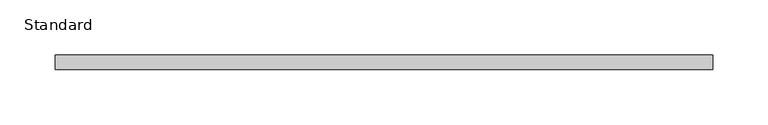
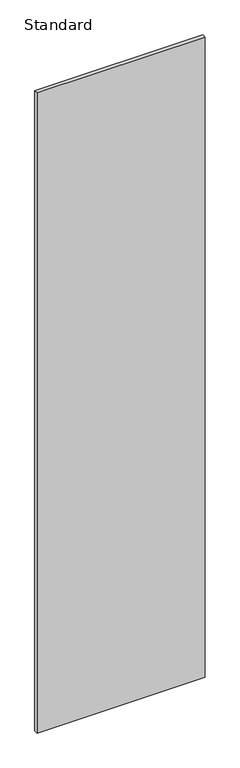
"""IFC4 building model written with IfcOpenShell, lengths in millimetres: furniture geometry, X_Partition-Compact Laminate-Duracube-Urinal : Standard."""

import ifcopenshell
import ifcopenshell.guid

model = None  # the IFC model being written
_history = None  # IfcOwnerHistory: only IFC2X3 demands one
_inside = {}  # id of a spatial element -> (the spatial element, [elements in it])
_under = {}  # id of a project, library or spatial element -> (it, [spatial elements below it])
_declared = {}  # id of a project -> (the project, [libraries it declares])
_typed = {}  # id of a type object -> (the type object, [elements of that type])
_made_of = {}  # id of a material, layer set ... -> (it, [elements and type objects made of it])


def new_model(schema):
    """Start an empty IFC model of exactly this schema.

    Asked for "IFC4X3", IfcOpenShell would pick the latest addendum, in which some entities
    have other attributes; the version numbers below select the first issue.
    IFC2X3 requires an IfcOwnerHistory on every rooted entity: one is made here for all.
    """
    global model, _history
    if schema == "IFC4X3":
        model = ifcopenshell.file(schema_version=(4, 3, 0, 0))
    else:
        model = ifcopenshell.file(schema=schema)
    _inside.clear()
    _under.clear()
    _declared.clear()
    _typed.clear()
    _made_of.clear()
    _history = None
    if model.schema == "IFC2X3":
        org = make("IfcOrganization", Name="unknown")
        user = make(
            "IfcPersonAndOrganization",
            ThePerson=make("IfcPerson", FamilyName="unknown"),
            TheOrganization=org,
        )
        app = make(
            "IfcApplication",
            ApplicationDeveloper=org,
            Version="unknown",
            ApplicationFullName="unknown",
            ApplicationIdentifier="unknown",
        )
        _history = make(
            "IfcOwnerHistory",
            OwningUser=user,
            OwningApplication=app,
            ChangeAction="ADDED",
            CreationDate=0,
        )
    return model


def make(cls, **values):
    """One entity of the class cls with the attributes given. An attribute that is None is left unset."""
    return model.create_entity(
        cls, **{name: value for name, value in values.items() if value is not None}
    )


def rooted(cls, **values):
    """An entity with a GlobalId (a new one), such as an element, a storey or a relation."""
    return make(cls, GlobalId=ifcopenshell.guid.new(), OwnerHistory=_history, **values)


def si_unit(unit_type, name, prefix=None):
    """IfcSIUnit, for example si_unit("LENGTHUNIT", "METRE", prefix="MILLI")."""
    return make("IfcSIUnit", UnitType=unit_type, Prefix=prefix, Name=name)


def assignment(units):
    """IfcUnitAssignment: the units of a project."""
    return None if units is None else make("IfcUnitAssignment", Units=units)


def point(xyz):
    """IfcCartesianPoint."""
    return None if xyz is None else make("IfcCartesianPoint", Coordinates=xyz)


def direction(xyz):
    """IfcDirection."""
    return None if xyz is None else make("IfcDirection", DirectionRatios=xyz)


def frame(location, z_axis=None, x_axis=None):
    """IfcAxis2Placement3D, a coordinate frame: its origin and axes. An axis left out is left unset."""
    return make(
        "IfcAxis2Placement3D",
        Location=point(location),
        Axis=direction(z_axis),
        RefDirection=direction(x_axis),
    )


def origin():
    """The frame at (0, 0, 0) with its axes left unset."""
    return frame((0.0, 0.0, 0.0))


def origin_with_axes():
    """The frame at (0, 0, 0) with the z axis (0, 0, 1) and the x axis (1, 0, 0) written out."""
    return frame((0.0, 0.0, 0.0), z_axis=(0.0, 0.0, 1.0), x_axis=(1.0, 0.0, 0.0))


def place(relative_to, where):
    """IfcLocalPlacement: puts the frame where relative to a parent placement (None: the world)."""
    return make(
        "IfcLocalPlacement", PlacementRelTo=relative_to, RelativePlacement=where
    )


def context(
    kind, dimensions, precision=None, world=None, true_north=None, identifier=None
):
    """IfcGeometricRepresentationContext, for example the 3D "Model" context."""
    return make(
        "IfcGeometricRepresentationContext",
        ContextIdentifier=identifier,
        ContextType=kind,
        CoordinateSpaceDimension=dimensions,
        Precision=precision,
        WorldCoordinateSystem=world,
        TrueNorth=true_north,
    )


def project(units=None, contexts=None):
    """IfcProject with its units and contexts."""
    return rooted(
        "IfcProject",
        Name="project",
        RepresentationContexts=contexts,
        UnitsInContext=assignment(units),
    )


def spatial(cls, under=None, at=None, **own):
    """A site, building, storey or space (cls), placed at a placement, below another one or the project."""
    s = rooted(cls, ObjectPlacement=at, **own)
    if under is not None:
        _under.setdefault(under.id(), (under, []))[1].append(s)
    return s


def polyline(points):
    """IfcPolyline through the points."""
    return make("IfcPolyline", Points=[point(p) for p in points])


def outline(outer, holes=None, kind="AREA"):
    """IfcArbitraryClosedProfileDef: a profile drawn as a closed curve; with holes, ...WithVoids."""
    if holes is None:
        return make("IfcArbitraryClosedProfileDef", ProfileType=kind, OuterCurve=outer)
    return make(
        "IfcArbitraryProfileDefWithVoids",
        ProfileType=kind,
        OuterCurve=outer,
        InnerCurves=holes,
    )


def extrude(swept, where, along, depth):
    """IfcExtrudedAreaSolid: the profile swept, set in the frame where, extruded along a direction by depth."""
    return make(
        "IfcExtrudedAreaSolid",
        SweptArea=swept,
        Position=where,
        ExtrudedDirection=direction(along),
        Depth=depth,
    )


def shape(context_of_items, identifier, shape_type, items):
    """IfcShapeRepresentation: the items that make up one representation, for example the "Body"."""
    return make(
        "IfcShapeRepresentation",
        ContextOfItems=context_of_items,
        RepresentationIdentifier=identifier,
        RepresentationType=shape_type,
        Items=items,
    )


def source(mapping_origin, context_of_items, identifier, shape_type, items):
    """IfcRepresentationMap: a shape defined once, which mapped items show again and again."""
    return make(
        "IfcRepresentationMap",
        MappingOrigin=mapping_origin,
        MappedRepresentation=shape(context_of_items, identifier, shape_type, items),
    )


def transform(
    local_origin,
    x_axis=None,
    y_axis=None,
    z_axis=None,
    scale=None,
    scale2=None,
    scale3=None,
    uniform=True,
):
    """IfcCartesianTransformationOperator3D, or its non-uniform kind. x_axis, y_axis, z_axis: its Axis1, 2, 3."""
    if uniform:
        return make(
            "IfcCartesianTransformationOperator3D",
            Axis1=direction(x_axis),
            Axis2=direction(y_axis),
            LocalOrigin=point(local_origin),
            Scale=scale,
            Axis3=direction(z_axis),
        )
    return make(
        "IfcCartesianTransformationOperator3DnonUniform",
        Axis1=direction(x_axis),
        Axis2=direction(y_axis),
        LocalOrigin=point(local_origin),
        Scale=scale,
        Axis3=direction(z_axis),
        Scale2=scale2,
        Scale3=scale3,
    )


def mapped(mapping_source, mapping_target):
    """IfcMappedItem: shows the shape of a source again, moved by a transform."""
    return make(
        "IfcMappedItem", MappingSource=mapping_source, MappingTarget=mapping_target
    )


def made_of(thing, what):
    """Note that an element or type object is made of a material, layer set ...; save() writes the relation."""
    if what is not None:
        _made_of.setdefault(what.id(), (what, []))[1].append(thing)
    return thing


def element(
    cls,
    number,
    at=None,
    inside=None,
    cuts=None,
    type_object=None,
    material=None,
    context=None,
    identifier="Body",
    shape_type=None,
    held_by="IfcProductDefinitionShape",
    body=None,
    shapes=None,
    **own,
):
    """One element of the class cls, such as IfcWall. Its Tag is "e" and its number.

    at: its placement. inside: the storey or other place that contains it. cuts: it is an
    opening in that element (IfcRelVoidsElement). A single representation is given by context,
    identifier, shape_type and body (its items); several are given by shapes. held_by: the class
    of the entity that holds the representations. save() writes the other relations.
    """
    e = rooted(cls, Tag="e%d" % number, ObjectPlacement=at, **own)
    if body is not None:
        shapes = [shape(context, identifier, shape_type, body)]
    if shapes is not None:
        e.Representation = make(held_by, Representations=shapes)
    if inside is not None:
        _inside.setdefault(inside.id(), (inside, []))[1].append(e)
    if cuts is not None:
        rooted(
            "IfcRelVoidsElement", RelatingBuildingElement=cuts, RelatedOpeningElement=e
        )
    if type_object is not None:
        _typed.setdefault(type_object.id(), (type_object, []))[1].append(e)
    return made_of(e, material)


def aggregate(whole, parts):
    """IfcRelAggregates: a whole, such as a stair, and the parts it consists of."""
    return rooted("IfcRelAggregates", RelatingObject=whole, RelatedObjects=parts)


def save(model, path):
    """Write the relations noted so far, then the file.

    IfcRelAggregates (storeys below a building ...), IfcRelContainedInSpatialStructure (elements
    in a storey), IfcRelDefinesByType, IfcRelAssociatesMaterial and IfcRelDeclares: one each for
    every whole, place, type object, material and project.
    """
    for whole, parts in _under.values():
        aggregate(whole, parts)
    for where, things in _inside.values():
        rooted(
            "IfcRelContainedInSpatialStructure",
            RelatedElements=things,
            RelatingStructure=where,
        )
    for kind, things in _typed.values():
        rooted("IfcRelDefinesByType", RelatedObjects=things, RelatingType=kind)
    for what, things in _made_of.values():
        rooted("IfcRelAssociatesMaterial", RelatedObjects=things, RelatingMaterial=what)
    for by, libraries in _declared.values():
        rooted("IfcRelDeclares", RelatingContext=by, RelatedDefinitions=libraries)
    model.write(path)


def standard_aac5732c(model_context):
    return source(origin(), model_context, "Body", "SweptSolid", [
        extrude(outline(polyline([(344.7003264, -13.0), (-251.2996736, -13.0), (-251.2996736, 0.0), (344.7003264, 0.0), (344.7003264, -13.0)])), origin_with_axes(), (0.0, 0.0, 1.0), 2398.0),
    ])


if __name__ == "__main__":
    model = new_model("IFC4")
    model_context = context("Model", 3, world=origin())
    ifc_project = project(units=[si_unit("LENGTHUNIT", "METRE", prefix="MILLI")], contexts=[model_context])
    site = spatial("IfcSite", under=ifc_project)
    building = spatial("IfcBuilding", under=site)
    placement = place(None, origin())
    standard_shape = standard_aac5732c(model_context)
    element("IfcFurniture", 1, ObjectType="X_Partition-Compact Laminate-Duracube-Urinal : Standard", at=placement, inside=building, context=model_context, shape_type="MappedRepresentation", body=[
        mapped(standard_shape, transform((0.0, 0.0, 0.0), x_axis=(1.0, 0.0, 0.0), y_axis=(0.0, 1.0, 0.0), z_axis=(0.0, 0.0, 1.0))),
    ])
    save(model, "model.ifc")
